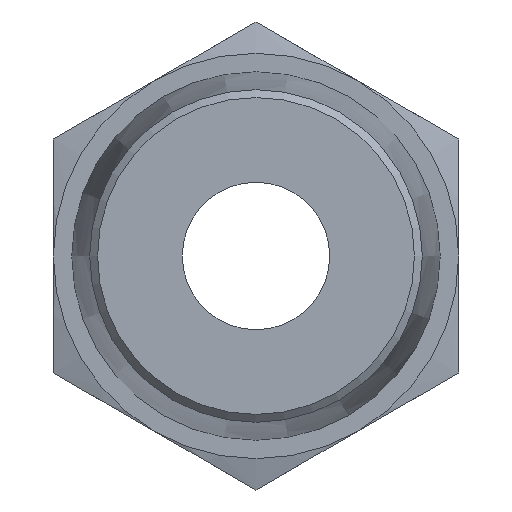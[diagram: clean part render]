
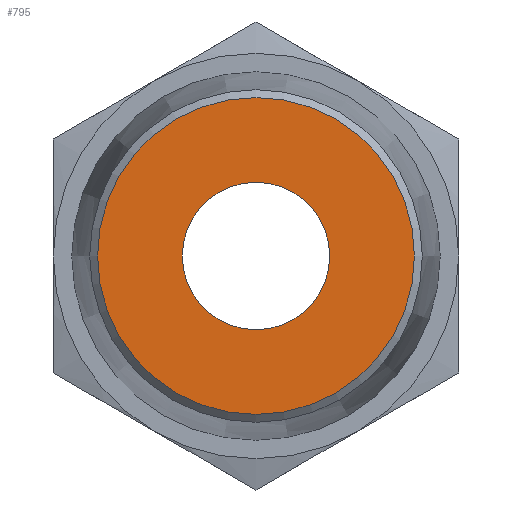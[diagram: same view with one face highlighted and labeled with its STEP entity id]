
A CAD part, front view. The second image highlights one B-rep face of the part: STEP entity #795.
In plain terms, the highlighted planar face has unit normal (0, -1, 0).
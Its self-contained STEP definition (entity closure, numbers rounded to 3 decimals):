
#15=FACE_BOUND('',#144,.T.);
#94=FACE_OUTER_BOUND('',#143,.T.);
#143=EDGE_LOOP('',(#639));
#144=EDGE_LOOP('',(#640));
#188=CIRCLE('',#880,4.3);
#190=CIRCLE('',#884,2.);
#378=VERTEX_POINT('',#1349);
#380=VERTEX_POINT('',#1357);
#473=EDGE_CURVE('',#378,#378,#188,.T.);
#476=EDGE_CURVE('',#380,#380,#190,.T.);
#639=ORIENTED_EDGE('',*,*,#473,.F.);
#640=ORIENTED_EDGE('',*,*,#476,.T.);
#763=PLANE('',#883);
#795=ADVANCED_FACE('',(#94,#15),#763,.T.);
#880=AXIS2_PLACEMENT_3D('',#1351,#1053,#1054);
#883=AXIS2_PLACEMENT_3D('',#1356,#1060,#1061);
#884=AXIS2_PLACEMENT_3D('',#1358,#1062,#1063);
#1053=DIRECTION('center_axis',(0.,1.,0.));
#1054=DIRECTION('ref_axis',(-1.,0.,0.));
#1060=DIRECTION('center_axis',(0.,-1.,0.));
#1061=DIRECTION('ref_axis',(0.,0.,-1.));
#1062=DIRECTION('center_axis',(0.,1.,0.));
#1063=DIRECTION('ref_axis',(1.,0.,0.));
#1349=CARTESIAN_POINT('',(4.3,-7.2,0.));
#1351=CARTESIAN_POINT('Origin',(0.,-7.2,0.));
#1356=CARTESIAN_POINT('Origin',(4.5,-7.2,0.));
#1357=CARTESIAN_POINT('',(-2.,-7.2,0.));
#1358=CARTESIAN_POINT('Origin',(0.,-7.2,0.));
